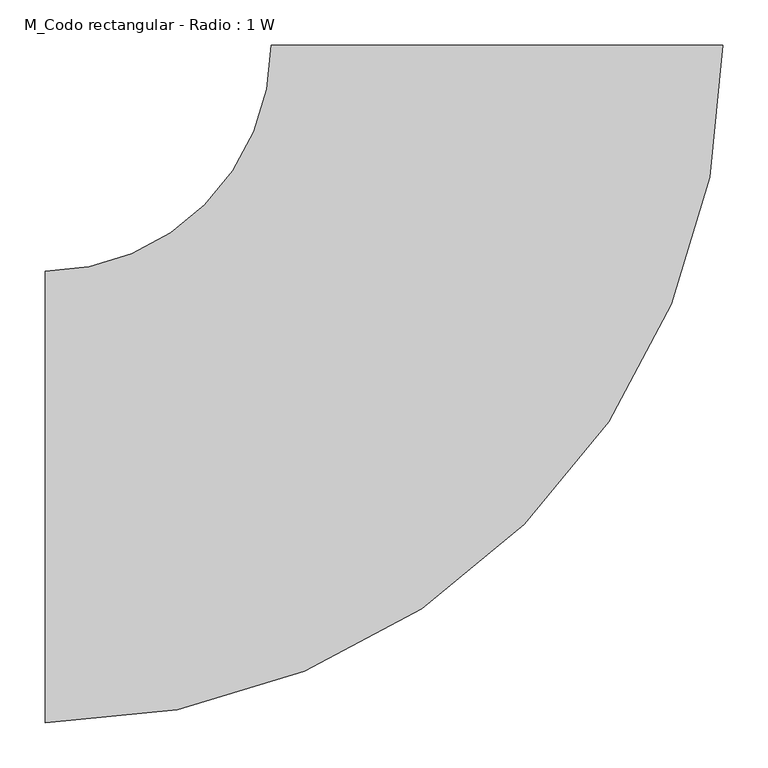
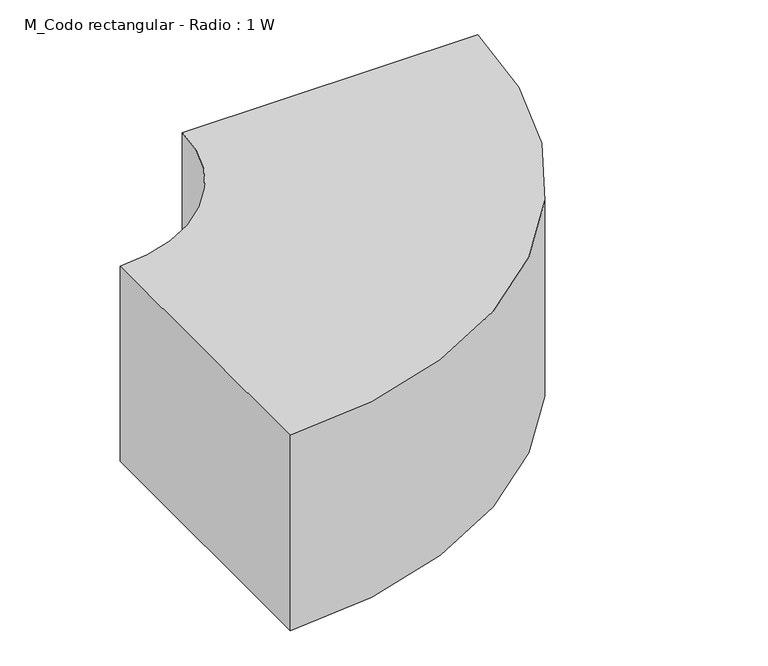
"""IFC4 building model written with IfcOpenShell, lengths in millimetres: duct fitting geometry, M_Codo rectangular - Radio : 1 W."""

from ifc_helpers import new_model, si_unit, point, frame, frame_2d, origin, place, context, project, spatial, polyline, circle_curve, trimmed, segment, composite_curve, outline, extrude, source, transform, mapped, element, save


def m_codo_rectangular_radio_1_w_cff9abae(model_context):
    return source(origin(), model_context, "Body", "SweptSolid", [
        extrude(outline(composite_curve([segment(trimmed(circle_curve(frame_2d((-500.0, 500.0)), 750.0), [point((250.0, 500.0))], [point((-500.0, -250.0))], False, "CARTESIAN"), True, "CONTINUOUS"), segment(polyline([(-500.0, -250.0), (-500.0, 250.0)]), True, "CONTINUOUS"), segment(trimmed(circle_curve(frame_2d((-500.0, 500.0)), 250.0), [point((-500.0, 250.0))], [point((-250.0, 500.0))], True, "CARTESIAN"), True, "CONTINUOUS"), segment(polyline([(-250.0, 500.0), (250.0, 500.0)]), True, "CONTINUOUS")], self_intersect=False)), frame((0.0, 0.0, -175.0), z_axis=(0.0, 0.0, 1.0), x_axis=(1.0, 0.0, 0.0)), (0.0, 0.0, 1.0), 350.0),
    ])


if __name__ == "__main__":
    model = new_model("IFC4")
    model_context = context("Model", 3, world=origin())
    ifc_project = project(units=[si_unit("LENGTHUNIT", "METRE", prefix="MILLI")], contexts=[model_context])
    site = spatial("IfcSite", under=ifc_project)
    building = spatial("IfcBuilding", under=site)
    placement = place(None, origin())
    m_codo_rectangular_radio_1_w_shape = m_codo_rectangular_radio_1_w_cff9abae(model_context)
    element("IfcDuctFitting", 1, ObjectType="M_Codo rectangular - Radio : 1 W", at=placement, inside=building, context=model_context, shape_type="MappedRepresentation", body=[
        mapped(m_codo_rectangular_radio_1_w_shape, transform((0.0, 0.0, 0.0), x_axis=(1.0, 0.0, 0.0), y_axis=(0.0, 1.0, 0.0), z_axis=(0.0, 0.0, 1.0))),
    ])
    save(model, "model.ifc")
